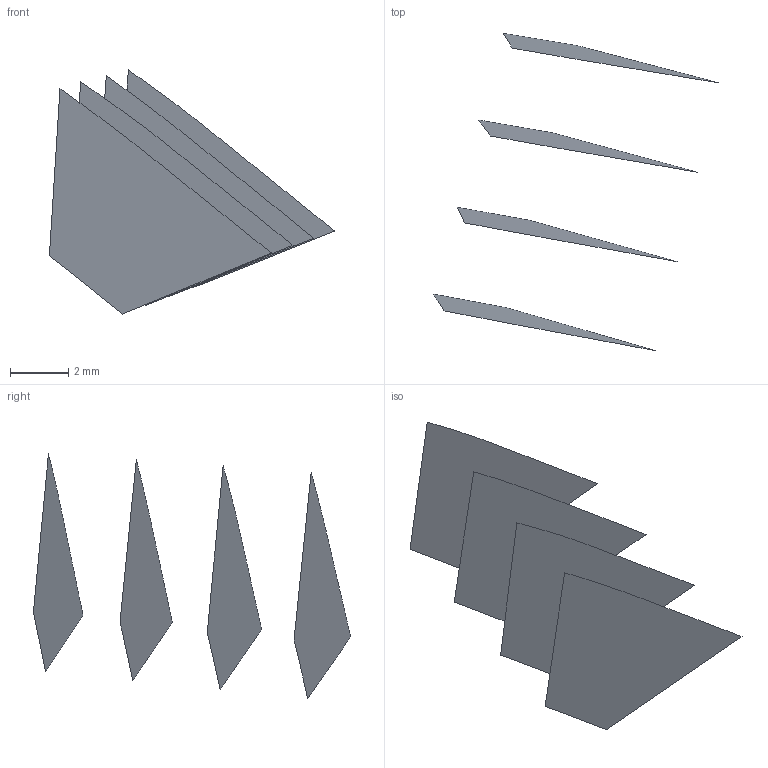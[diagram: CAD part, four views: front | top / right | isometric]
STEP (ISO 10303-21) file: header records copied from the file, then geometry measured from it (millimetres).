
FILE_DESCRIPTION(('FreeCAD Model'),'2;1');
FILE_NAME('Open CASCADE Shape Model','2022-05-22T07:50:30',('FreeCAD'),( 'FreeCAD'),'Open CASCADE STEP processor 7.5','FreeCAD','Unknown');
FILE_SCHEMA(('AUTOMOTIVE_DESIGN { 1 0 10303 214 1 1 1 1 }'));
Length unit declared in the file: millimetre
Products named in the file (5): Open CASCADE STEP translator 7.5 1; Open CASCADE STEP translator 7.5 1.1; Open CASCADE STEP translator 7.5 1.2; Open CASCADE STEP translator 7.5 1.3; Open CASCADE STEP translator 7.5 1.4
Assembly tree (4 placements, depth 2):
  Open CASCADE STEP translator 7.5 1
    Open CASCADE STEP translator 7.5 1.1
    Open CASCADE STEP translator 7.5 1.2
    Open CASCADE STEP translator 7.5 1.3
    Open CASCADE STEP translator 7.5 1.4
Bounding box: 9.82 x 10.93 x 8.41 mm (x, y, z)
Surface area: 121.1 mm2 (no closed solid volume)
Topology: 0 solids, 4 shells, 4 faces, 85 edges, 85 vertices
Faces by surface type: bspline 4
Entity records: 1233 total; most frequent: CARTESIAN_POINT 446, B_SPLINE_CURVE_WITH_KNOTS 170, ORIENTED_EDGE 85, EDGE_CURVE 85, VERTEX_POINT 85, SURFACE_CURVE 85, PCURVE 85, DEFINITIONAL_REPRESENTATION 85
